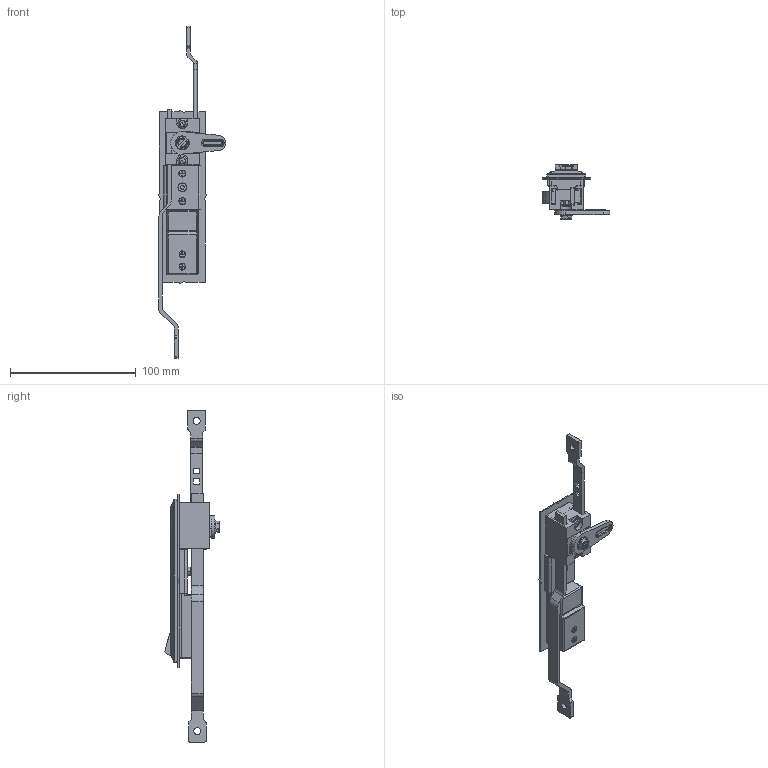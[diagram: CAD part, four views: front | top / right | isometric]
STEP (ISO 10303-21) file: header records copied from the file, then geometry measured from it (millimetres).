
FILE_DESCRIPTION (( 'STEP AP203' ), '1' );
FILE_NAME ('A-838-2.STEP', '2015-11-21T13:27:17', ( '' ), ( '' ), 'SwSTEP 2.0', 'SolidWorks 2014', '' );
FILE_SCHEMA (( 'CONFIG_CONTROL_DESIGN' ));
Length unit declared in the file: millimetre
Products named in the file (15): KEY; 大頭螺絲; 連桿座; 舌片; 連桿上; A-838-2; 連桿下; ㄇ型片; PTH; 螺絲; 軸; 長螺絲; PTS; 定位片; push
Assembly tree (18 placements, depth 2):
  A-838-2
    PTH
    軸
    PTS
    push
    KEY
    連桿座
    連桿上
    連桿下
    ㄇ型片
    螺絲  x4
    長螺絲  x2
    定位片
    大頭螺絲
    舌片
Bounding box: 53.85 x 43.36 x 264.3 mm (x, y, z)
Volume: 67723.5 mm3; surface area: 58481.7 mm2
Topology: 22 solids, 22 shells, 722 faces, 1852 edges, 1179 vertices
Faces by surface type: plane 391, cylinder 218, bspline 72, sphere 22, cone 19
Entity records: 23359 total; most frequent: CARTESIAN_POINT 6135, ORIENTED_EDGE 3300, DIRECTION 3115, EDGE_CURVE 1650, VERTEX_POINT 1062, LINE 1059, VECTOR 1059, AXIS2_PLACEMENT_3D 1028
